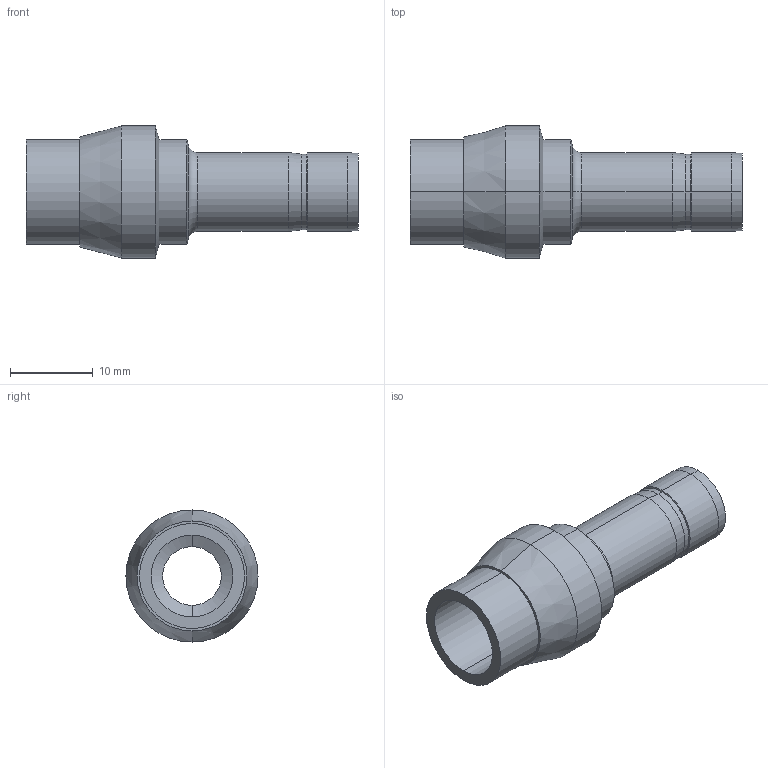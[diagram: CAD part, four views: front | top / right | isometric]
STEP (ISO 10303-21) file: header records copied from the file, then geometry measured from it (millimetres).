
FILE_DESCRIPTION (( 'STEP AP203' ), '1' );
FILE_NAME ('DPC08-06 SS.STEP', '2009-09-08T08:33:34', ( ' ' ), ( '' ), 'SwSTEP 2.0', 'SolidWorks 2008', '' );
FILE_SCHEMA (( 'CONFIG_CONTROL_DESIGN' ));
Length unit declared in the file: millimetre
Products named in the file (1): DPC08-06 SS
Bounding box: 40.2 x 16 x 16 mm (x, y, z)
Volume: 2548.6 mm3; surface area: 2671.3 mm2
Topology: 1 solids, 1 shells, 35 faces, 70 edges, 38 vertices
Faces by surface type: cylinder 16, cone 14, plane 3, torus 2
Entity records: 977 total; most frequent: DIRECTION 182, CARTESIAN_POINT 144, ORIENTED_EDGE 140, AXIS2_PLACEMENT_3D 76, EDGE_CURVE 70, CIRCLE 40, EDGE_LOOP 38, VERTEX_POINT 38
